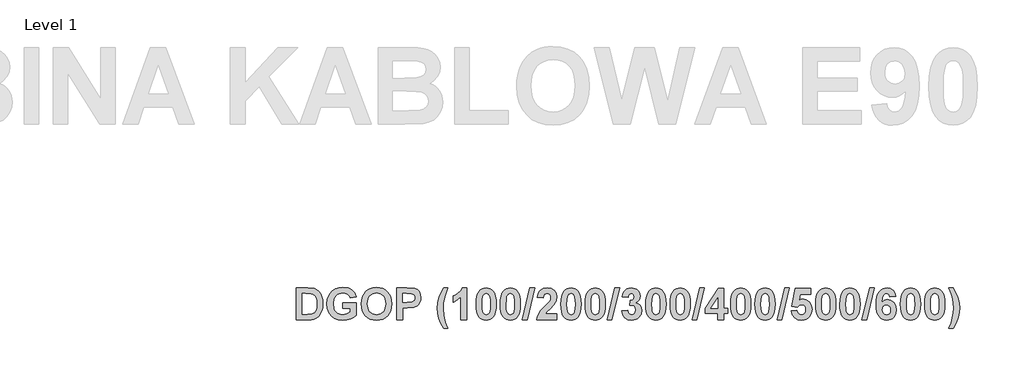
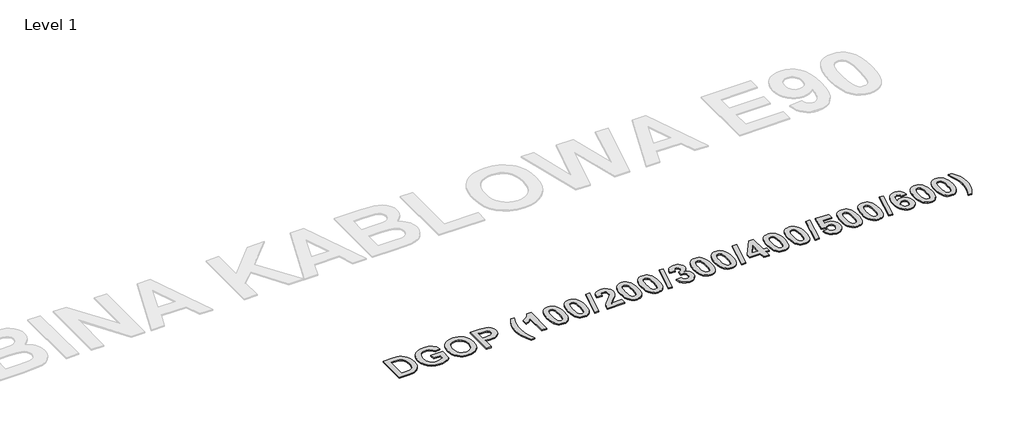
# One storey, part 30 of 42: 1 proxy.
"""IFC4 building model written with IfcOpenShell, lengths in millimetres."""

from ifc_helpers import new_model, si_unit, origin, origin_with_axes, place, context, project, spatial, polyline, outline, extrude, element, save

model = new_model("IFC4")

# Units and contexts
model_context = context("Model", 3, world=origin())
ifc_project = project(units=[si_unit("LENGTHUNIT", "METRE", prefix="MILLI")], contexts=[model_context])

# Site, building, storey
site = spatial("IfcSite", under=ifc_project)
building = spatial("IfcBuilding", under=site)
storey = spatial("IfcBuildingStorey", under=building, Name="Level 1", Elevation=0.0)

# Proxy
placement = place(None, origin())
element("IfcBuildingElementProxy", 1, Name="300mm Arial 2", ObjectType="300mm Arial 2", at=placement, inside=storey, context=model_context, shape_type="SweptSolid", body=[
    extrude(outline(polyline([(20343.7052644, 4462.1558373), (20438.1526406, 4462.1558373), (20466.3033991, 4460.9380798), (20486.8629418, 4457.2848072), (20507.7704153, 4448.0883656), (20525.451622, 4433.7836684), (20539.5981689, 4415.0270394), (20549.9016628, 4392.4748025), (20556.1881384, 4365.1701483), (20558.2836302, 4332.1562672), (20556.3225661, 4302.8668264), (20550.4393739, 4277.8790744), (20538.7678797, 4252.7015421), (20522.9844769, 4232.8378608), (20507.2010741, 4221.2296267), (20486.6731614, 4212.4680985), (20466.6987749, 4208.4352651), (20440.9360864, 4207.0909873), (20343.7052644, 4207.0909873), (20343.7052644, 4462.1558373)]), holes=[polyline([(20392.2890453, 4417.6207048), (20392.2890453, 4251.6261199), (20433.6611713, 4251.6261199), (20467.1890409, 4254.0300049), (20489.5514974, 4264.4362965), (20497.6250717, 4274.1704492), (20504.0696976, 4288.6332968), (20508.2923113, 4308.5286081), (20509.6998493, 4334.5601522), (20508.2923113, 4360.2279505), (20504.0696976, 4379.1585449), (20497.3245861, 4393.0125137), (20488.3495549, 4403.4504354), (20476.8915636, 4410.7569805), (20462.6975716, 4415.2168198), (20417.2135371, 4417.6207048), (20392.2890453, 4417.6207048)])]), origin_with_axes(), (0.0, 0.0, 1.0), 10.0),
    extrude(outline(polyline([(20716.1809183, 4300.2099008), (20716.1809183, 4344.7450334), (20825.4944254, 4344.7450334), (20825.4944254, 4243.022742), (20805.9786749, 4228.1012585), (20779.3145295, 4215.093394), (20748.8864063, 4206.0551027), (20718.0787223, 4203.0423389), (20681.2455107, 4207.2333226), (20649.4414796, 4219.8062738), (20623.7894963, 4240.1681286), (20605.4124281, 4267.7258233), (20594.3577202, 4300.2494384), (20590.6728175, 4335.5090542), (20594.8400787, 4373.0302196), (20607.3418622, 4406.1389909), (20627.8776823, 4433.4436452), (20656.1470536, 4453.5524595), (20683.6335807, 4463.0414792), (20717.1298203, 4466.2044857), (20759.3322355, 4461.0962301), (20776.5488756, 4454.7109106), (20791.1758041, 4445.7714633), (20813.0875322, 4421.4321277), (20825.4944254, 4389.2801659), (20776.9106445, 4381.1828691), (20768.7342725, 4397.9863415), (20755.5919802, 4410.8202407), (20738.0214787, 4418.9570751), (20716.5604791, 4421.6693532), (20684.756448, 4416.3713172), (20671.5706644, 4409.7487722), (20660.195702, 4400.4772092), (20651.0348442, 4388.5961657), (20644.4913743, 4374.1451795), (20639.2565985, 4337.5333784), (20644.4597443, 4298.1776691), (20650.9636765, 4282.7164976), (20660.0691817, 4270.0664482), (20671.2859938, 4260.2275209), (20684.1238467, 4253.1997157), (20714.6626752, 4247.5774715), (20748.0956546, 4253.7453343), (20776.9106445, 4268.7063554), (20776.9106445, 4300.2099008), (20716.1809183, 4300.2099008)])), origin_with_axes(), (0.0, 0.0, 1.0), 10.0),
    extrude(outline(polyline([(20865.9809096, 4333.0419091), (20868.8434305, 4368.8155134), (20877.4309934, 4398.3263647), (20887.5288918, 4416.7587855), (20900.7423518, 4433.2143272), (20916.2173615, 4446.6808277), (20933.099909, 4456.1461248), (20958.3090714, 4463.6898955), (20987.1240613, 4466.2044857), (21013.4165534, 4464.0239881), (21036.9414148, 4457.4824951), (21057.6986454, 4446.5800068), (21075.6882453, 4431.3165233), (21090.2183068, 4412.1704491), (21100.5969221, 4389.6201891), (21106.8240913, 4363.6657433), (21108.8998143, 4334.3071117), (21106.8399063, 4305.1481448), (21100.6601822, 4279.3498725), (21090.3606421, 4256.9122946), (21075.9412858, 4237.8354112), (21058.0702987, 4222.6134421), (21037.4158658, 4211.740607), (21013.9779871, 4205.216906), (20987.7566626, 4203.0423389), (20961.258575, 4205.2070216), (20937.6230084, 4211.7010694), (20916.8499628, 4222.5244825), (20898.9394381, 4237.6772609), (20884.5200818, 4256.6256471), (20874.2205417, 4278.8358839), (20868.0408176, 4304.3079712), (20865.9809096, 4333.0419091)]), holes=[polyline([(20914.5646905, 4334.8131927), (20919.7282988, 4297.0627093), (20926.182809, 4282.0898269), (20935.2191234, 4269.7185175), (20958.6649097, 4253.112733), (20987.6934025, 4247.5774715), (21016.6586352, 4253.0731954), (21039.914641, 4269.5603672), (21048.8402502, 4281.925746), (21055.2156853, 4297.0389867), (21060.3160334, 4335.5090542), (21055.3501131, 4373.4018729), (21049.1427127, 4388.2205587), (21040.4523521, 4400.2874288), (21017.3307741, 4416.3238721), (20987.6934025, 4421.6693532), (20957.9927708, 4416.260612), (20934.6814123, 4400.0343883), (20925.8803465, 4387.8449517), (20919.593871, 4372.9116069), (20914.5646905, 4334.8131927)])]), origin_with_axes(), (0.0, 0.0, 1.0), 10.0),
    extrude(outline(polyline([(21149.3862984, 4207.0909873), (21149.3862984, 4462.1558373), (21231.5612092, 4462.1558373), (21292.4807158, 4458.3602294), (21312.5262699, 4449.3061231), (21329.0134417, 4433.5306279), (21340.0444271, 4411.6188998), (21343.7214222, 4384.1560953), (21341.5626703, 4362.6713731), (21335.0864143, 4344.9031837), (21325.2810939, 4330.7012842), (21313.1351487, 4319.9154318), (21286.0914425, 4307.8643767), (21232.0040301, 4304.2585492), (21197.9700794, 4304.2585492), (21197.9700794, 4207.0909873), (21149.3862984, 4207.0909873)]), holes=[polyline([(21197.9700794, 4417.6207048), (21197.9700794, 4348.7936818), (21228.1451621, 4348.7936818), (21271.6997626, 4352.5892897), (21288.9065184, 4364.5138245), (21293.5798606, 4373.2990752), (21295.1376413, 4383.3969737), (21292.9472592, 4395.4638438), (21286.3761131, 4405.221719), (21276.467995, 4412.2119636), (21264.2666972, 4415.9759414), (21224.6025947, 4417.6207048), (21197.9700794, 4417.6207048)])]), origin_with_axes(), (0.0, 0.0, 1.0), 10.0),
    extrude(outline(polyline([(21558.2997881, 4138.2639643), (21525.9106008, 4138.2639643), (21503.2397512, 4177.9359743), (21486.7209494, 4219.1420424), (21476.6388659, 4260.4430007), (21473.2781715, 4300.3996812), (21477.39008, 4347.7973347), (21489.7258056, 4392.5696927), (21505.9203993, 4428.8493781), (21525.9106008, 4462.1558373), (21558.2997881, 4462.1558373), (21540.7371941, 4414.9163342), (21529.6745786, 4375.2996769), (21523.815109, 4338.4190202), (21521.8619524, 4299.3875191), (21526.5432021, 4242.7380714), (21539.3850088, 4187.670127), (21558.2997881, 4138.2639643)])), origin_with_axes(), (0.0, 0.0, 1.0), 10.0),
    extrude(outline(polyline([(21712.1484278, 4207.0909873), (21663.5646468, 4207.0909873), (21663.5646468, 4389.4066862), (21635.5087785, 4365.5259866), (21602.8349207, 4348.7936818), (21602.8349207, 4397.3774627), (21622.3032261, 4406.4631991), (21643.3846649, 4421.1949022), (21661.8408083, 4440.2124792), (21673.4332273, 4462.1558373), (21712.1484278, 4462.1558373), (21712.1484278, 4207.0909873)])), origin_with_axes(), (0.0, 0.0, 1.0), 10.0),
    extrude(outline(polyline([(21865.9970675, 4462.1558373), (21883.1287018, 4460.5110739), (21898.2755495, 4455.5767837), (21911.4376106, 4447.3529666), (21922.6148851, 4435.8396227), (21933.2702635, 4417.7116412), (21940.8812481, 4394.4516817), (21945.4478388, 4366.0597439), (21946.9700357, 4332.535828), (21945.4399313, 4299.0435422), (21940.849618, 4270.6199744), (21933.1990959, 4247.2651246), (21922.4883648, 4228.9789928), (21911.366443, 4217.6317067), (21898.2439195, 4209.5265024), (21883.1207943, 4204.6633798), (21865.9970675, 4203.0423389), (21848.6894909, 4204.8215301), (21833.1413367, 4210.1591037), (21819.3526049, 4219.0550597), (21807.3232955, 4231.5093981), (21797.5673972, 4248.5303272), (21790.5988983, 4271.1260554), (21786.417799, 4299.2965827), (21785.0240992, 4333.0419091), (21786.5542036, 4366.3681371), (21791.1445169, 4394.6730921), (21798.7950391, 4417.9567742), (21809.5057701, 4436.2191834), (21820.6276919, 4447.5664695), (21833.7502155, 4455.6716739), (21848.8733406, 4460.5347965), (21865.9970675, 4462.1558373)]), holes=[polyline([(21865.9970675, 4417.6207048), (21849.8024738, 4412.2752237), (21843.4764607, 4404.8026207), (21838.7952109, 4393.0757738), (21834.9047129, 4368.9262186), (21833.6078802, 4332.535828), (21834.7623776, 4296.6277959), (21838.2258698, 4274.0518365), (21843.4527381, 4260.7988389), (21849.897364, 4252.8596924), (21865.9970675, 4247.5774715), (21882.1916611, 4252.9229526), (21888.5176743, 4260.3955556), (21893.198924, 4272.1224025), (21897.0894221, 4296.1454374), (21898.3862548, 4332.535828), (21897.2317574, 4368.4043225), (21893.7682652, 4390.9881895), (21888.5413968, 4404.2807246), (21882.0967709, 4412.2752237), (21865.9970675, 4417.6207048)])]), origin_with_axes(), (0.0, 0.0, 1.0), 10.0),
    extrude(outline(polyline([(22060.3321913, 4462.1558373), (22077.4638256, 4460.5110739), (22092.6106733, 4455.5767837), (22105.7727344, 4447.3529666), (22116.9500089, 4435.8396227), (22127.6053873, 4417.7116412), (22135.2163719, 4394.4516817), (22139.7829626, 4366.0597439), (22141.3051595, 4332.535828), (22139.7750551, 4299.0435422), (22135.1847418, 4270.6199744), (22127.5342197, 4247.2651246), (22116.8234886, 4228.9789928), (22105.7015668, 4217.6317067), (22092.5790433, 4209.5265024), (22077.4559181, 4204.6633798), (22060.3321913, 4203.0423389), (22043.0246147, 4204.8215301), (22027.4764605, 4210.1591037), (22013.6877287, 4219.0550597), (22001.6584194, 4231.5093981), (21991.902521, 4248.5303272), (21984.9340221, 4271.1260554), (21980.7529228, 4299.2965827), (21979.359223, 4333.0419091), (21980.8893274, 4366.3681371), (21985.4796407, 4394.6730921), (21993.1301629, 4417.9567742), (22003.8408939, 4436.2191834), (22014.9628157, 4447.5664695), (22028.0853393, 4455.6716739), (22043.2084644, 4460.5347965), (22060.3321913, 4462.1558373)]), holes=[polyline([(22060.3321913, 4417.6207048), (22044.1375976, 4412.2752237), (22037.8115845, 4404.8026207), (22033.1303347, 4393.0757738), (22029.2398367, 4368.9262186), (22027.943004, 4332.535828), (22029.0975014, 4296.6277959), (22032.5609936, 4274.0518365), (22037.7878619, 4260.7988389), (22044.2324878, 4252.8596924), (22060.3321913, 4247.5774715), (22076.5267849, 4252.9229526), (22082.8527981, 4260.3955556), (22087.5340478, 4272.1224025), (22091.4245459, 4296.1454374), (22092.7213786, 4332.535828), (22091.5668812, 4368.4043225), (22088.103389, 4390.9881895), (22082.8765206, 4404.2807246), (22076.4318947, 4412.2752237), (22060.3321913, 4417.6207048)])]), origin_with_axes(), (0.0, 0.0, 1.0), 10.0),
    extrude(outline(polyline([(22156.6141113, 4207.0909873), (22217.3438375, 4462.1558373), (22254.6673151, 4462.1558373), (22193.9375889, 4207.0909873), (22156.6141113, 4207.0909873)])), origin_with_axes(), (0.0, 0.0, 1.0), 10.0),
    extrude(outline(polyline([(22432.8078452, 4255.6747683), (22432.8078452, 4207.0909873), (22270.8619087, 4207.0909873), (22276.0334245, 4231.5963808), (22286.3606409, 4254.7574964), (22305.5442758, 4280.9392833), (22337.2850467, 4314.5066905), (22374.8615648, 4355.2462152), (22381.8834394, 4369.9541958), (22384.2240643, 4384.4723959), (22382.2550927, 4398.6189428), (22376.3481779, 4409.048957), (22366.9777709, 4415.4777678), (22354.6183228, 4417.6207048), (22342.3458573, 4415.5093979), (22332.8568375, 4409.1754773), (22326.4675643, 4397.9547114), (22323.4943381, 4381.1828691), (22274.9105571, 4385.6110783), (22283.513935, 4420.7599888), (22291.1367808, 4433.9991482), (22300.9737313, 4444.3481103), (22325.5977375, 4457.7039056), (22355.693745, 4462.1558373), (22387.8298918, 4457.1661945), (22412.2483025, 4442.1972659), (22427.6679595, 4419.8110869), (22432.8078452, 4392.5696927), (22427.1776935, 4360.433546), (22409.3383365, 4328.4871796), (22379.1316237, 4296.6040733), (22351.392056, 4268.9593959), (22342.2825971, 4255.6747683), (22432.8078452, 4255.6747683)])), origin_with_axes(), (0.0, 0.0, 1.0), 10.0),
    extrude(outline(polyline([(22546.1700008, 4462.1558373), (22563.3016351, 4460.5110739), (22578.4484828, 4455.5767837), (22591.6105439, 4447.3529666), (22602.7878184, 4435.8396227), (22613.4431968, 4417.7116412), (22621.0541814, 4394.4516817), (22625.6207721, 4366.0597439), (22627.142969, 4332.535828), (22625.6128646, 4299.0435422), (22621.0225513, 4270.6199744), (22613.3720292, 4247.2651246), (22602.6612982, 4228.9789928), (22591.5393763, 4217.6317067), (22578.4168528, 4209.5265024), (22563.2937276, 4204.6633798), (22546.1700008, 4203.0423389), (22528.8624242, 4204.8215301), (22513.31427, 4210.1591037), (22499.5255382, 4219.0550597), (22487.4962289, 4231.5093981), (22477.7403305, 4248.5303272), (22470.7718316, 4271.1260554), (22466.5907323, 4299.2965827), (22465.1970325, 4333.0419091), (22466.7271369, 4366.3681371), (22471.3174502, 4394.6730921), (22478.9679724, 4417.9567742), (22489.6787034, 4436.2191834), (22500.8006252, 4447.5664695), (22513.9231488, 4455.6716739), (22529.0462739, 4460.5347965), (22546.1700008, 4462.1558373)]), holes=[polyline([(22546.1700008, 4417.6207048), (22529.9754071, 4412.2752237), (22523.649394, 4404.8026207), (22518.9681442, 4393.0757738), (22515.0776462, 4368.9262186), (22513.7808135, 4332.535828), (22514.9353109, 4296.6277959), (22518.3988031, 4274.0518365), (22523.6256714, 4260.7988389), (22530.0702973, 4252.8596924), (22546.1700008, 4247.5774715), (22562.3645944, 4252.9229526), (22568.6906076, 4260.3955556), (22573.3718573, 4272.1224025), (22577.2623554, 4296.1454374), (22578.5591881, 4332.535828), (22577.4046907, 4368.4043225), (22573.9411985, 4390.9881895), (22568.7143301, 4404.2807246), (22562.2697042, 4412.2752237), (22546.1700008, 4417.6207048)])]), origin_with_axes(), (0.0, 0.0, 1.0), 10.0),
    extrude(outline(polyline([(22740.5051246, 4462.1558373), (22757.6367589, 4460.5110739), (22772.7836066, 4455.5767837), (22785.9456677, 4447.3529666), (22797.1229422, 4435.8396227), (22807.7783206, 4417.7116412), (22815.3893052, 4394.4516817), (22819.9558959, 4366.0597439), (22821.4780928, 4332.535828), (22819.9479884, 4299.0435422), (22815.3576751, 4270.6199744), (22807.707153, 4247.2651246), (22796.996422, 4228.9789928), (22785.8745001, 4217.6317067), (22772.7519766, 4209.5265024), (22757.6288514, 4204.6633798), (22740.5051246, 4203.0423389), (22723.197548, 4204.8215301), (22707.6493938, 4210.1591037), (22693.860662, 4219.0550597), (22681.8313527, 4231.5093981), (22672.0754543, 4248.5303272), (22665.1069554, 4271.1260554), (22660.9258561, 4299.2965827), (22659.5321563, 4333.0419091), (22661.0622608, 4366.3681371), (22665.652574, 4394.6730921), (22673.3030962, 4417.9567742), (22684.0138272, 4436.2191834), (22695.1357491, 4447.5664695), (22708.2582726, 4455.6716739), (22723.3813977, 4460.5347965), (22740.5051246, 4462.1558373)]), holes=[polyline([(22740.5051246, 4417.6207048), (22724.3105309, 4412.2752237), (22717.9845178, 4404.8026207), (22713.303268, 4393.0757738), (22709.41277, 4368.9262186), (22708.1159373, 4332.535828), (22709.2704347, 4296.6277959), (22712.7339269, 4274.0518365), (22717.9607952, 4260.7988389), (22724.4054211, 4252.8596924), (22740.5051246, 4247.5774715), (22756.6997182, 4252.9229526), (22763.0257314, 4260.3955556), (22767.7069811, 4272.1224025), (22771.5974792, 4296.1454374), (22772.8943119, 4332.535828), (22771.7398145, 4368.4043225), (22768.2763223, 4390.9881895), (22763.0494539, 4404.2807246), (22756.604828, 4412.2752237), (22740.5051246, 4417.6207048)])]), origin_with_axes(), (0.0, 0.0, 1.0), 10.0),
    extrude(outline(polyline([(22836.7870446, 4207.0909873), (22897.5167708, 4462.1558373), (22934.8402484, 4462.1558373), (22874.1105222, 4207.0909873), (22836.7870446, 4207.0909873)])), origin_with_axes(), (0.0, 0.0, 1.0), 10.0),
    extrude(outline(polyline([(22951.034842, 4278.3851555), (22999.618623, 4284.0153072), (23003.3667858, 4268.3900547), (23010.5626257, 4256.9399709), (23020.4153912, 4249.9180963), (23032.1343305, 4247.5774715), (23044.7072817, 4250.2581195), (23055.0977583, 4258.3000638), (23062.0721877, 4270.8809224), (23064.3969976, 4287.1783138), (23062.2698757, 4302.5979708), (23055.8885099, 4314.4434304), (23046.4390278, 4321.9872011), (23035.1075567, 4324.5017913), (23015.8132166, 4320.8959638), (23020.0516454, 4360.939627), (23033.8818917, 4362.6792806), (23043.9956052, 4368.9104036), (23050.1871905, 4378.7789841), (23052.2510523, 4391.4310104), (23050.7090866, 4402.1773252), (23046.0831895, 4410.50394), (23038.8952571, 4415.8415136), (23029.6671854, 4417.6207048), (23020.2809634, 4415.556843), (23012.3655395, 4409.3652576), (23006.60096, 4399.204099), (23003.6672714, 4385.2315175), (22955.0834904, 4392.5064326), (22960.6424745, 4414.2441953), (22968.4630082, 4431.1267429), (22979.1856005, 4444.0397172), (22993.4507602, 4453.8687601), (23010.444013, 4460.084068), (23029.3508848, 4462.1558373), (23060.0004184, 4456.4149804), (23072.7868725, 4449.2389092), (23083.8811181, 4439.1924096), (23096.5964045, 4419.170578), (23100.8348333, 4396.6816013), (23098.5614223, 4380.7360944), (23091.7411894, 4366.4907036), (23080.3741345, 4353.9454287), (23064.4602577, 4343.10027), (23084.323939, 4335.5485918), (23099.7594111, 4322.2560566), (23109.6754367, 4304.392977), (23112.9807785, 4283.1296653), (23107.1213088, 4252.3615189), (23089.5428998, 4226.4802176), (23077.1063534, 4216.2261457), (23063.2345927, 4208.9018086), (23031.1854286, 4203.0423389), (23000.9233632, 4208.2533923), (22976.3072645, 4223.8865522), (22959.0926013, 4247.9333097), (22951.034842, 4278.3851555)])), origin_with_axes(), (0.0, 0.0, 1.0), 10.0),
    extrude(outline(polyline([(23226.3429341, 4462.1558373), (23243.4745684, 4460.5110739), (23258.6214161, 4455.5767837), (23271.7834772, 4447.3529666), (23282.9607517, 4435.8396227), (23293.6161301, 4417.7116412), (23301.2271147, 4394.4516817), (23305.7937054, 4366.0597439), (23307.3159023, 4332.535828), (23305.7857979, 4299.0435422), (23301.1954846, 4270.6199744), (23293.5449625, 4247.2651246), (23282.8342315, 4228.9789928), (23271.7123096, 4217.6317067), (23258.5897861, 4209.5265024), (23243.4666609, 4204.6633798), (23226.3429341, 4203.0423389), (23209.0353575, 4204.8215301), (23193.4872033, 4210.1591037), (23179.6984715, 4219.0550597), (23167.6691622, 4231.5093981), (23157.9132638, 4248.5303272), (23150.9447649, 4271.1260554), (23146.7636656, 4299.2965827), (23145.3699658, 4333.0419091), (23146.9000703, 4366.3681371), (23151.4903835, 4394.6730921), (23159.1409057, 4417.9567742), (23169.8516367, 4436.2191834), (23180.9735586, 4447.5664695), (23194.0960821, 4455.6716739), (23209.2192072, 4460.5347965), (23226.3429341, 4462.1558373)]), holes=[polyline([(23226.3429341, 4417.6207048), (23210.1483404, 4412.2752237), (23203.8223273, 4404.8026207), (23199.1410776, 4393.0757738), (23195.2505795, 4368.9262186), (23193.9537468, 4332.535828), (23195.1082442, 4296.6277959), (23198.5717364, 4274.0518365), (23203.7986047, 4260.7988389), (23210.2432306, 4252.8596924), (23226.3429341, 4247.5774715), (23242.5375277, 4252.9229526), (23248.8635409, 4260.3955556), (23253.5447906, 4272.1224025), (23257.4352887, 4296.1454374), (23258.7321214, 4332.535828), (23257.577624, 4368.4043225), (23254.1141318, 4390.9881895), (23248.8872634, 4404.2807246), (23242.4426375, 4412.2752237), (23226.3429341, 4417.6207048)])]), origin_with_axes(), (0.0, 0.0, 1.0), 10.0),
    extrude(outline(polyline([(23420.6780579, 4462.1558373), (23437.8096922, 4460.5110739), (23452.9565399, 4455.5767837), (23466.118601, 4447.3529666), (23477.2958755, 4435.8396227), (23487.9512539, 4417.7116412), (23495.5622385, 4394.4516817), (23500.1288292, 4366.0597439), (23501.6510261, 4332.535828), (23500.1209217, 4299.0435422), (23495.5306084, 4270.6199744), (23487.8800863, 4247.2651246), (23477.1693553, 4228.9789928), (23466.0474334, 4217.6317067), (23452.9249099, 4209.5265024), (23437.8017847, 4204.6633798), (23420.6780579, 4203.0423389), (23403.3704813, 4204.8215301), (23387.8223271, 4210.1591037), (23374.0335953, 4219.0550597), (23362.004286, 4231.5093981), (23352.2483876, 4248.5303272), (23345.2798887, 4271.1260554), (23341.0987894, 4299.2965827), (23339.7050896, 4333.0419091), (23341.2351941, 4366.3681371), (23345.8255073, 4394.6730921), (23353.4760295, 4417.9567742), (23364.1867605, 4436.2191834), (23375.3086824, 4447.5664695), (23388.4312059, 4455.6716739), (23403.554331, 4460.5347965), (23420.6780579, 4462.1558373)]), holes=[polyline([(23420.6780579, 4417.6207048), (23404.4834642, 4412.2752237), (23398.1574511, 4404.8026207), (23393.4762014, 4393.0757738), (23389.5857033, 4368.9262186), (23388.2888706, 4332.535828), (23389.443368, 4296.6277959), (23392.9068602, 4274.0518365), (23398.1337285, 4260.7988389), (23404.5783544, 4252.8596924), (23420.6780579, 4247.5774715), (23436.8726515, 4252.9229526), (23443.1986647, 4260.3955556), (23447.8799144, 4272.1224025), (23451.7704125, 4296.1454374), (23453.0672452, 4332.535828), (23451.9127478, 4368.4043225), (23448.4492556, 4390.9881895), (23443.2223872, 4404.2807246), (23436.7777613, 4412.2752237), (23420.6780579, 4417.6207048)])]), origin_with_axes(), (0.0, 0.0, 1.0), 10.0),
    extrude(outline(polyline([(23516.9599779, 4207.0909873), (23577.6897041, 4462.1558373), (23615.0131817, 4462.1558373), (23554.2834555, 4207.0909873), (23516.9599779, 4207.0909873)])), origin_with_axes(), (0.0, 0.0, 1.0), 10.0),
    extrude(outline(polyline([(23720.2780404, 4207.0909873), (23720.2780404, 4259.7234167), (23623.1104785, 4259.7234167), (23623.1104785, 4300.0201204), (23726.7305738, 4458.1071889), (23768.8618214, 4458.1071889), (23768.8618214, 4300.2099008), (23801.2510087, 4300.2099008), (23801.2510087, 4259.7234167), (23768.8618214, 4259.7234167), (23768.8618214, 4207.0909873), (23720.2780404, 4207.0909873)]), holes=[polyline([(23720.2780404, 4300.2099008), (23720.2780404, 4383.080673), (23666.0008476, 4300.2099008), (23720.2780404, 4300.2099008)])]), origin_with_axes(), (0.0, 0.0, 1.0), 10.0),
    extrude(outline(polyline([(23906.5158674, 4462.1558373), (23923.6475017, 4460.5110739), (23938.7943494, 4455.5767837), (23951.9564105, 4447.3529666), (23963.133685, 4435.8396227), (23973.7890634, 4417.7116412), (23981.400048, 4394.4516817), (23985.9666387, 4366.0597439), (23987.4888356, 4332.535828), (23985.9587312, 4299.0435422), (23981.3684179, 4270.6199744), (23973.7178958, 4247.2651246), (23963.0071648, 4228.9789928), (23951.8852429, 4217.6317067), (23938.7627194, 4209.5265024), (23923.6395942, 4204.6633798), (23906.5158674, 4203.0423389), (23889.2082908, 4204.8215301), (23873.6601366, 4210.1591037), (23859.8714048, 4219.0550597), (23847.8420955, 4231.5093981), (23838.0861971, 4248.5303272), (23831.1176982, 4271.1260554), (23826.9365989, 4299.2965827), (23825.5428991, 4333.0419091), (23827.0730036, 4366.3681371), (23831.6633168, 4394.6730921), (23839.313839, 4417.9567742), (23850.02457, 4436.2191834), (23861.1464919, 4447.5664695), (23874.2690154, 4455.6716739), (23889.3921405, 4460.5347965), (23906.5158674, 4462.1558373)]), holes=[polyline([(23906.5158674, 4417.6207048), (23890.3212737, 4412.2752237), (23883.9952606, 4404.8026207), (23879.3140109, 4393.0757738), (23875.4235128, 4368.9262186), (23874.1266801, 4332.535828), (23875.2811775, 4296.6277959), (23878.7446697, 4274.0518365), (23883.971538, 4260.7988389), (23890.4161639, 4252.8596924), (23906.5158674, 4247.5774715), (23922.710461, 4252.9229526), (23929.0364742, 4260.3955556), (23933.7177239, 4272.1224025), (23937.608222, 4296.1454374), (23938.9050547, 4332.535828), (23937.7505573, 4368.4043225), (23934.2870651, 4390.9881895), (23929.0601967, 4404.2807246), (23922.6155708, 4412.2752237), (23906.5158674, 4417.6207048)])]), origin_with_axes(), (0.0, 0.0, 1.0), 10.0),
    extrude(outline(polyline([(24100.8509912, 4462.1558373), (24117.9826255, 4460.5110739), (24133.1294733, 4455.5767837), (24146.2915343, 4447.3529666), (24157.4688088, 4435.8396227), (24168.1241872, 4417.7116412), (24175.7351718, 4394.4516817), (24180.3017625, 4366.0597439), (24181.8239594, 4332.535828), (24180.293855, 4299.0435422), (24175.7035417, 4270.6199744), (24168.0530196, 4247.2651246), (24157.3422886, 4228.9789928), (24146.2203667, 4217.6317067), (24133.0978432, 4209.5265024), (24117.974718, 4204.6633798), (24100.8509912, 4203.0423389), (24083.5434146, 4204.8215301), (24067.9952604, 4210.1591037), (24054.2065286, 4219.0550597), (24042.1772193, 4231.5093981), (24032.4213209, 4248.5303272), (24025.452822, 4271.1260554), (24021.2717227, 4299.2965827), (24019.8780229, 4333.0419091), (24021.4081274, 4366.3681371), (24025.9984406, 4394.6730921), (24033.6489628, 4417.9567742), (24044.3596938, 4436.2191834), (24055.4816157, 4447.5664695), (24068.6041392, 4455.6716739), (24083.7272644, 4460.5347965), (24100.8509912, 4462.1558373)]), holes=[polyline([(24100.8509912, 4417.6207048), (24084.6563975, 4412.2752237), (24078.3303844, 4404.8026207), (24073.6491347, 4393.0757738), (24069.7586366, 4368.9262186), (24068.4618039, 4332.535828), (24069.6163013, 4296.6277959), (24073.0797935, 4274.0518365), (24078.3066618, 4260.7988389), (24084.7512877, 4252.8596924), (24100.8509912, 4247.5774715), (24117.0455848, 4252.9229526), (24123.371598, 4260.3955556), (24128.0528477, 4272.1224025), (24131.9433458, 4296.1454374), (24133.2401785, 4332.535828), (24132.0856811, 4368.4043225), (24128.6221889, 4390.9881895), (24123.3953205, 4404.2807246), (24116.9506946, 4412.2752237), (24100.8509912, 4417.6207048)])]), origin_with_axes(), (0.0, 0.0, 1.0), 10.0),
    extrude(outline(polyline([(24197.1329112, 4207.0909873), (24257.8626374, 4462.1558373), (24295.186115, 4462.1558373), (24234.4563888, 4207.0909873), (24197.1329112, 4207.0909873)])), origin_with_axes(), (0.0, 0.0, 1.0), 10.0),
    extrude(outline(polyline([(24311.3807086, 4278.8912365), (24355.9158412, 4284.0153072), (24360.0593798, 4268.9435809), (24368.3148269, 4257.3827918), (24379.41698, 4250.0288016), (24392.1006364, 4247.5774715), (24406.2946284, 4250.1790444), (24418.1321804, 4257.9837631), (24426.1266796, 4271.0232577), (24428.7915126, 4289.3291582), (24426.31646, 4306.4884689), (24418.891302, 4318.7451193), (24407.4965708, 4326.0991096), (24393.1127985, 4328.5504397), (24374.2929094, 4323.4896292), (24357.5606046, 4308.3071977), (24315.429357, 4314.5699507), (24343.7698959, 4458.1071889), (24465.2293483, 4458.1071889), (24465.2293483, 4409.523408), (24383.0544376, 4409.523408), (24373.2491172, 4363.1537316), (24388.7320344, 4370.6026121), (24404.5628823, 4373.0855723), (24432.6820107, 4367.3368078), (24456.1831495, 4350.0905145), (24472.0772575, 4323.6715021), (24477.3752935, 4290.4045805), (24472.9628994, 4261.4788854), (24459.7257169, 4235.811087), (24446.5083032, 4221.4747597), (24430.9581721, 4211.234526), (24413.0753237, 4205.0903857), (24392.8597579, 4203.0423389), (24361.854386, 4208.1822246), (24337.1592122, 4223.6018817), (24319.9445489, 4247.7039917), (24311.3807086, 4278.8912365)])), origin_with_axes(), (0.0, 0.0, 1.0), 10.0),
    extrude(outline(polyline([(24586.6888007, 4462.1558373), (24603.820435, 4460.5110739), (24618.9672828, 4455.5767837), (24632.1293439, 4447.3529666), (24643.3066183, 4435.8396227), (24653.9619967, 4417.7116412), (24661.5729813, 4394.4516817), (24666.139572, 4366.0597439), (24667.6617689, 4332.535828), (24666.1316645, 4299.0435422), (24661.5413512, 4270.6199744), (24653.8908291, 4247.2651246), (24643.1800981, 4228.9789928), (24632.0581762, 4217.6317067), (24618.9356527, 4209.5265024), (24603.8125275, 4204.6633798), (24586.6888007, 4203.0423389), (24569.3812241, 4204.8215301), (24553.8330699, 4210.1591037), (24540.0443381, 4219.0550597), (24528.0150288, 4231.5093981), (24518.2591304, 4248.5303272), (24511.2906315, 4271.1260554), (24507.1095322, 4299.2965827), (24505.7158324, 4333.0419091), (24507.2459369, 4366.3681371), (24511.8362502, 4394.6730921), (24519.4867723, 4417.9567742), (24530.1975033, 4436.2191834), (24541.3194252, 4447.5664695), (24554.4419487, 4455.6716739), (24569.5650739, 4460.5347965), (24586.6888007, 4462.1558373)]), holes=[polyline([(24586.6888007, 4417.6207048), (24570.494207, 4412.2752237), (24564.1681939, 4404.8026207), (24559.4869442, 4393.0757738), (24555.5964461, 4368.9262186), (24554.2996134, 4332.535828), (24555.4541108, 4296.6277959), (24558.917603, 4274.0518365), (24564.1444713, 4260.7988389), (24570.5890972, 4252.8596924), (24586.6888007, 4247.5774715), (24602.8833943, 4252.9229526), (24609.2094075, 4260.3955556), (24613.8906572, 4272.1224025), (24617.7811553, 4296.1454374), (24619.077988, 4332.535828), (24617.9234906, 4368.4043225), (24614.4599984, 4390.9881895), (24609.23313, 4404.2807246), (24602.7885041, 4412.2752237), (24586.6888007, 4417.6207048)])]), origin_with_axes(), (0.0, 0.0, 1.0), 10.0),
    extrude(outline(polyline([(24781.0239245, 4462.1558373), (24798.1555588, 4460.5110739), (24813.3024066, 4455.5767837), (24826.4644677, 4447.3529666), (24837.6417421, 4435.8396227), (24848.2971205, 4417.7116412), (24855.9081051, 4394.4516817), (24860.4746958, 4366.0597439), (24861.9968927, 4332.535828), (24860.4667883, 4299.0435422), (24855.876475, 4270.6199744), (24848.2259529, 4247.2651246), (24837.5152219, 4228.9789928), (24826.3933, 4217.6317067), (24813.2707765, 4209.5265024), (24798.1476513, 4204.6633798), (24781.0239245, 4203.0423389), (24763.7163479, 4204.8215301), (24748.1681937, 4210.1591037), (24734.3794619, 4219.0550597), (24722.3501526, 4231.5093981), (24712.5942542, 4248.5303272), (24705.6257553, 4271.1260554), (24701.444656, 4299.2965827), (24700.0509562, 4333.0419091), (24701.5810607, 4366.3681371), (24706.171374, 4394.6730921), (24713.8218961, 4417.9567742), (24724.5326271, 4436.2191834), (24735.654549, 4447.5664695), (24748.7770725, 4455.6716739), (24763.9001977, 4460.5347965), (24781.0239245, 4462.1558373)]), holes=[polyline([(24781.0239245, 4417.6207048), (24764.8293308, 4412.2752237), (24758.5033177, 4404.8026207), (24753.822068, 4393.0757738), (24749.9315699, 4368.9262186), (24748.6347372, 4332.535828), (24749.7892346, 4296.6277959), (24753.2527268, 4274.0518365), (24758.4795951, 4260.7988389), (24764.924221, 4252.8596924), (24781.0239245, 4247.5774715), (24797.2185181, 4252.9229526), (24803.5445313, 4260.3955556), (24808.225781, 4272.1224025), (24812.1162791, 4296.1454374), (24813.4131118, 4332.535828), (24812.2586144, 4368.4043225), (24808.7951222, 4390.9881895), (24803.5682538, 4404.2807246), (24797.1236279, 4412.2752237), (24781.0239245, 4417.6207048)])]), origin_with_axes(), (0.0, 0.0, 1.0), 10.0),
    extrude(outline(polyline([(24877.3058445, 4207.0909873), (24938.0355707, 4462.1558373), (24975.3590483, 4462.1558373), (24914.6293221, 4207.0909873), (24877.3058445, 4207.0909873)])), origin_with_axes(), (0.0, 0.0, 1.0), 10.0),
    extrude(outline(polyline([(25149.45093, 4394.4674967), (25100.8671491, 4389.2801659), (25097.8939229, 4401.8768396), (25092.2637712, 4410.6937204), (25084.2613646, 4415.8889587), (25074.1713736, 4417.6207048), (25060.5704453, 4414.2600103), (25049.2468818, 4404.1779269), (25040.9439896, 4383.3416211), (25036.4050751, 4347.7182596), (25056.4269067, 4363.7072578), (25080.8136874, 4369.0369238), (25108.6402377, 4363.343512), (25132.1492841, 4346.2632765), (25148.1620048, 4320.1842873), (25153.4995784, 4287.4946144), (25148.0433921, 4253.0573804), (25141.2231592, 4238.6676773), (25131.6748331, 4226.163917), (25119.98357, 4216.0482266), (25106.7345263, 4208.8227334), (25075.5630965, 4203.0423389), (25058.0321326, 4204.9085128), (25042.130117, 4210.5070344), (25027.8570499, 4219.8379038), (25015.2129311, 4232.901121), (25004.8619921, 4250.2146282), (24997.4684642, 4272.2963678), (24993.0323475, 4299.1463399), (24991.5536419, 4330.7645443), (24993.0975845, 4363.2169918), (24997.7294123, 4390.7984091), (25005.4491252, 4413.5087963), (25016.2567233, 4431.3481533), (25029.5314665, 4444.8265151), (25044.6526148, 4454.4539163), (25061.6201682, 4460.2303571), (25080.4341266, 4462.1558373), (25105.7539942, 4457.8225183), (25126.2977219, 4444.8225613), (25141.1638528, 4423.5671572), (25149.45093, 4394.4674967)]), holes=[polyline([(25040.1374229, 4288.5700366), (25042.7627183, 4271.149778), (25050.6386047, 4258.2368036), (25061.8830931, 4250.2423045), (25074.6141945, 4247.5774715), (25086.5070992, 4249.759946), (25096.2491595, 4256.3073696), (25102.749138, 4267.8365286), (25104.9157975, 4284.9642092), (25102.5830801, 4302.7165835), (25095.5849281, 4314.9811415), (25085.0916538, 4322.1216289), (25072.2735697, 4324.5017913), (25059.8350463, 4322.2244266), (25049.4682923, 4315.3923324), (25042.4701402, 4304.132029), (25040.1374229, 4288.5700366)])]), origin_with_axes(), (0.0, 0.0, 1.0), 10.0),
    extrude(outline(polyline([(25266.861734, 4462.1558373), (25283.9933683, 4460.5110739), (25299.1402161, 4455.5767837), (25312.3022772, 4447.3529666), (25323.4795516, 4435.8396227), (25334.13493, 4417.7116412), (25341.7459146, 4394.4516817), (25346.3125053, 4366.0597439), (25347.8347022, 4332.535828), (25346.3045978, 4299.0435422), (25341.7142845, 4270.6199744), (25334.0637624, 4247.2651246), (25323.3530314, 4228.9789928), (25312.2311095, 4217.6317067), (25299.108586, 4209.5265024), (25283.9854608, 4204.6633798), (25266.861734, 4203.0423389), (25249.5541574, 4204.8215301), (25234.0060032, 4210.1591037), (25220.2172714, 4219.0550597), (25208.1879621, 4231.5093981), (25198.4320637, 4248.5303272), (25191.4635648, 4271.1260554), (25187.2824655, 4299.2965827), (25185.8887657, 4333.0419091), (25187.4188702, 4366.3681371), (25192.0091835, 4394.6730921), (25199.6597056, 4417.9567742), (25210.3704366, 4436.2191834), (25221.4923585, 4447.5664695), (25234.614882, 4455.6716739), (25249.7380072, 4460.5347965), (25266.861734, 4462.1558373)]), holes=[polyline([(25266.861734, 4417.6207048), (25250.6671403, 4412.2752237), (25244.3411272, 4404.8026207), (25239.6598775, 4393.0757738), (25235.7693794, 4368.9262186), (25234.4725467, 4332.535828), (25235.6270441, 4296.6277959), (25239.0905363, 4274.0518365), (25244.3174046, 4260.7988389), (25250.7620305, 4252.8596924), (25266.861734, 4247.5774715), (25283.0563276, 4252.9229526), (25289.3823408, 4260.3955556), (25294.0635905, 4272.1224025), (25297.9540886, 4296.1454374), (25299.2509213, 4332.535828), (25298.0964239, 4368.4043225), (25294.6329317, 4390.9881895), (25289.4060633, 4404.2807246), (25282.9614374, 4412.2752237), (25266.861734, 4417.6207048)])]), origin_with_axes(), (0.0, 0.0, 1.0), 10.0),
    extrude(outline(polyline([(25461.1968578, 4462.1558373), (25478.3284921, 4460.5110739), (25493.4753399, 4455.5767837), (25506.637401, 4447.3529666), (25517.8146754, 4435.8396227), (25528.4700538, 4417.7116412), (25536.0810384, 4394.4516817), (25540.6476291, 4366.0597439), (25542.169826, 4332.535828), (25540.6397216, 4299.0435422), (25536.0494083, 4270.6199744), (25528.3988862, 4247.2651246), (25517.6881552, 4228.9789928), (25506.5662333, 4217.6317067), (25493.4437098, 4209.5265024), (25478.3205846, 4204.6633798), (25461.1968578, 4203.0423389), (25443.8892812, 4204.8215301), (25428.341127, 4210.1591037), (25414.5523952, 4219.0550597), (25402.5230859, 4231.5093981), (25392.7671875, 4248.5303272), (25385.7986886, 4271.1260554), (25381.6175893, 4299.2965827), (25380.2238895, 4333.0419091), (25381.753994, 4366.3681371), (25386.3443073, 4394.6730921), (25393.9948294, 4417.9567742), (25404.7055604, 4436.2191834), (25415.8274823, 4447.5664695), (25428.9500058, 4455.6716739), (25444.073131, 4460.5347965), (25461.1968578, 4462.1558373)]), holes=[polyline([(25461.1968578, 4417.6207048), (25445.0022641, 4412.2752237), (25438.676251, 4404.8026207), (25433.9950013, 4393.0757738), (25430.1045032, 4368.9262186), (25428.8076705, 4332.535828), (25429.9621679, 4296.6277959), (25433.4256601, 4274.0518365), (25438.6525284, 4260.7988389), (25445.0971543, 4252.8596924), (25461.1968578, 4247.5774715), (25477.3914514, 4252.9229526), (25483.7174646, 4260.3955556), (25488.3987143, 4272.1224025), (25492.2892124, 4296.1454374), (25493.5860451, 4332.535828), (25492.4315477, 4368.4043225), (25488.9680555, 4390.9881895), (25483.7411871, 4404.2807246), (25477.2965612, 4412.2752237), (25461.1968578, 4417.6207048)])]), origin_with_axes(), (0.0, 0.0, 1.0), 10.0),
    extrude(outline(polyline([(25574.5590133, 4138.2639643), (25592.5565207, 4184.2540799), (25602.2353208, 4221.1663666), (25608.8460046, 4260.8620991), (25610.9968491, 4299.3875191), (25609.0516, 4338.4190202), (25603.2158529, 4375.2996769), (25592.1611449, 4414.9163342), (25574.5590133, 4462.1558373), (25606.9482006, 4462.1558373), (25629.1445993, 4424.8165448), (25645.7582913, 4385.2947776), (25656.1250453, 4344.3971027), (25659.58063, 4302.9300865), (25656.8129993, 4266.4289906), (25648.510107, 4227.3974895), (25631.7936173, 4182.5302413), (25606.9482006, 4138.2639643), (25574.5590133, 4138.2639643)])), origin_with_axes(), (0.0, 0.0, 1.0), 10.0),
])

save(model, "model.ifc")
